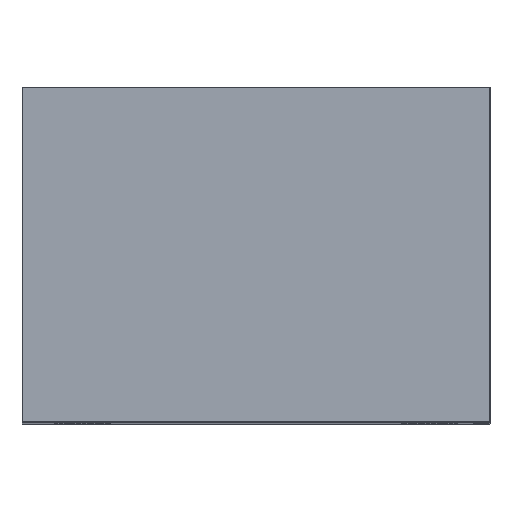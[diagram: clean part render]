
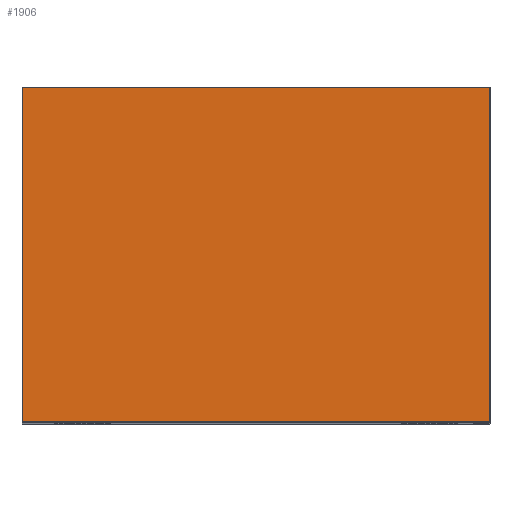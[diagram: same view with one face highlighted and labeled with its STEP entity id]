
A CAD part, top view. The second image highlights one B-rep face of the part: STEP entity #1906.
In plain terms, the highlighted planar face has unit normal (0, 0, 1).
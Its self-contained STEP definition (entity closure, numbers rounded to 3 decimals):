
#1776=CARTESIAN_POINT('',(17.49,-12.49,50.));
#1777=VERTEX_POINT('',#1776);
#1778=CARTESIAN_POINT('',(-17.49,-12.49,50.));
#1779=VERTEX_POINT('',#1778);
#1780=CARTESIAN_POINT('',(17.49,-12.49,50.));
#1781=DIRECTION('',(-1.0,0.0,0.0));
#1782=VECTOR('',#1781,34.98);
#1783=LINE('',#1780,#1782);
#1784=EDGE_CURVE('',#1777,#1779,#1783,.T.);
#1816=CARTESIAN_POINT('',(-17.49,12.49,50.));
#1817=VERTEX_POINT('',#1816);
#1818=CARTESIAN_POINT('',(-17.49,-12.49,50.));
#1819=DIRECTION('',(0.0,1.0,0.0));
#1820=VECTOR('',#1819,24.98);
#1821=LINE('',#1818,#1820);
#1822=EDGE_CURVE('',#1779,#1817,#1821,.T.);
#1847=CARTESIAN_POINT('',(17.49,12.49,50.));
#1848=VERTEX_POINT('',#1847);
#1849=CARTESIAN_POINT('',(-17.49,12.49,50.));
#1850=DIRECTION('',(1.0,0.0,0.0));
#1851=VECTOR('',#1850,34.98);
#1852=LINE('',#1849,#1851);
#1853=EDGE_CURVE('',#1817,#1848,#1852,.T.);
#1878=CARTESIAN_POINT('',(17.49,12.49,50.));
#1879=DIRECTION('',(0.0,-1.0,0.0));
#1880=VECTOR('',#1879,24.98);
#1881=LINE('',#1878,#1880);
#1882=EDGE_CURVE('',#1848,#1777,#1881,.T.);
#1895=CARTESIAN_POINT('',(0.,0.,50.));
#1896=DIRECTION('',(0.0,0.0,1.0));
#1897=DIRECTION('',(1.0,0.0,0.0));
#1898=AXIS2_PLACEMENT_3D('',#1895,#1896,#1897);
#1899=PLANE('',#1898);
#1900=ORIENTED_EDGE('',*,*,#1784,.F.);
#1901=ORIENTED_EDGE('',*,*,#1882,.F.);
#1902=ORIENTED_EDGE('',*,*,#1853,.F.);
#1903=ORIENTED_EDGE('',*,*,#1822,.F.);
#1904=EDGE_LOOP('',(#1900,#1901,#1902,#1903));
#1905=FACE_OUTER_BOUND('',#1904,.T.);
#1906=ADVANCED_FACE('',(#1905),#1899,.T.);
